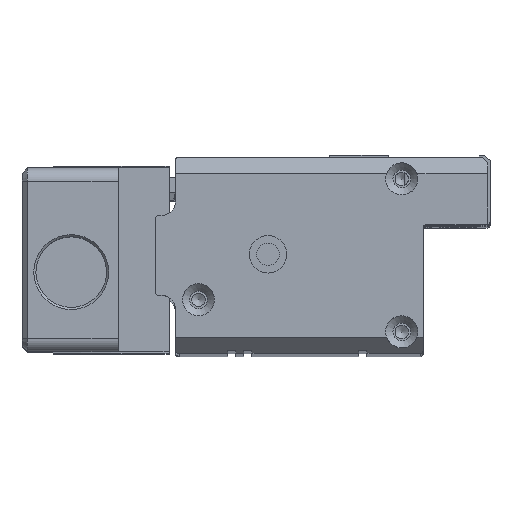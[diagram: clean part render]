
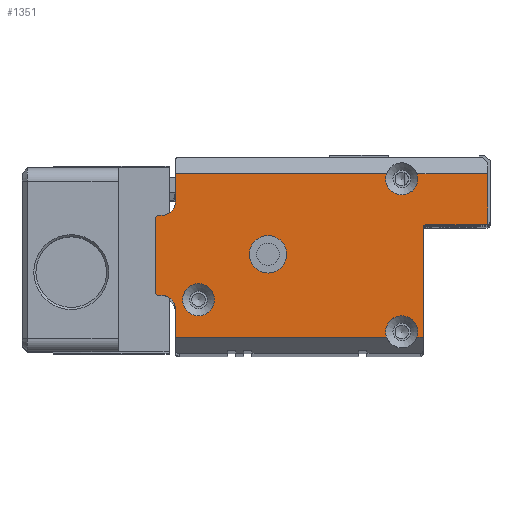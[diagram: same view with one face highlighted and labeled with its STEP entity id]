
A CAD part, top view. The second image highlights one B-rep face of the part: STEP entity #1351.
In plain terms, the highlighted planar face has unit normal (0, 0, 1).
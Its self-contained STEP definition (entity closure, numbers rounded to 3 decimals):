
#542=FACE_BOUND('',#2617,.T.);
#543=FACE_BOUND('',#2618,.T.);
#544=FACE_BOUND('',#2619,.T.);
#841=CIRCLE('',#9788,3.);
#842=CIRCLE('',#9789,3.);
#843=CIRCLE('',#9790,0.5);
#844=CIRCLE('',#9791,0.5);
#845=CIRCLE('',#9792,3.);
#846=CIRCLE('',#9793,2.5);
#847=CIRCLE('',#9794,0.5);
#848=CIRCLE('',#9795,0.5);
#849=CIRCLE('',#9796,2.5);
#850=CIRCLE('',#9797,3.5);
#1351=ADVANCED_FACE('',(#542,#543,#544),#1665,.T.);
#1665=PLANE('',#9798);
#2617=EDGE_LOOP('',(#6673));
#2618=EDGE_LOOP('',(#6674,#6675,#6676,#6677,#6678,#6679,#6680,#6681,#6682,
#6683,#6684,#6685,#6686,#6687,#6688,#6689,#6690,#6691,#6692,#6693));
#2619=EDGE_LOOP('',(#6694));
#3455=LINE('',#15266,#4315);
#3456=LINE('',#15268,#4316);
#3457=LINE('',#15272,#4317);
#3458=LINE('',#15276,#4318);
#3459=LINE('',#15278,#4319);
#3460=LINE('',#15282,#4320);
#3461=LINE('',#15284,#4321);
#3462=LINE('',#15288,#4322);
#3463=LINE('',#15292,#4323);
#3464=LINE('',#15296,#4324);
#3465=LINE('',#15300,#4325);
#3466=LINE('',#15302,#4326);
#4315=VECTOR('',#12127,1.);
#4316=VECTOR('',#12128,1.);
#4317=VECTOR('',#12131,1.);
#4318=VECTOR('',#12134,1.);
#4319=VECTOR('',#12135,1.);
#4320=VECTOR('',#12138,1.);
#4321=VECTOR('',#12139,1.);
#4322=VECTOR('',#12142,1.);
#4323=VECTOR('',#12145,1.);
#4324=VECTOR('',#12148,1.);
#4325=VECTOR('',#12151,1.);
#4326=VECTOR('',#12152,1.);
#6673=ORIENTED_EDGE('',*,*,#8920,.T.);
#6674=ORIENTED_EDGE('',*,*,#8921,.T.);
#6675=ORIENTED_EDGE('',*,*,#8922,.T.);
#6676=ORIENTED_EDGE('',*,*,#8923,.T.);
#6677=ORIENTED_EDGE('',*,*,#8924,.T.);
#6678=ORIENTED_EDGE('',*,*,#8925,.T.);
#6679=ORIENTED_EDGE('',*,*,#8926,.T.);
#6680=ORIENTED_EDGE('',*,*,#8927,.T.);
#6681=ORIENTED_EDGE('',*,*,#8928,.T.);
#6682=ORIENTED_EDGE('',*,*,#8929,.T.);
#6683=ORIENTED_EDGE('',*,*,#8930,.T.);
#6684=ORIENTED_EDGE('',*,*,#8931,.T.);
#6685=ORIENTED_EDGE('',*,*,#8932,.T.);
#6686=ORIENTED_EDGE('',*,*,#8933,.T.);
#6687=ORIENTED_EDGE('',*,*,#8934,.T.);
#6688=ORIENTED_EDGE('',*,*,#8935,.T.);
#6689=ORIENTED_EDGE('',*,*,#8936,.T.);
#6690=ORIENTED_EDGE('',*,*,#8937,.T.);
#6691=ORIENTED_EDGE('',*,*,#8938,.T.);
#6692=ORIENTED_EDGE('',*,*,#8939,.T.);
#6693=ORIENTED_EDGE('',*,*,#8940,.T.);
#6694=ORIENTED_EDGE('',*,*,#8941,.T.);
#7698=VERTEX_POINT('',#15262);
#7699=VERTEX_POINT('',#15264);
#7700=VERTEX_POINT('',#15265);
#7701=VERTEX_POINT('',#15267);
#7702=VERTEX_POINT('',#15269);
#7703=VERTEX_POINT('',#15271);
#7704=VERTEX_POINT('',#15273);
#7705=VERTEX_POINT('',#15275);
#7706=VERTEX_POINT('',#15277);
#7707=VERTEX_POINT('',#15279);
#7708=VERTEX_POINT('',#15281);
#7709=VERTEX_POINT('',#15283);
#7710=VERTEX_POINT('',#15285);
#7711=VERTEX_POINT('',#15287);
#7712=VERTEX_POINT('',#15289);
#7713=VERTEX_POINT('',#15291);
#7714=VERTEX_POINT('',#15293);
#7715=VERTEX_POINT('',#15295);
#7716=VERTEX_POINT('',#15297);
#7717=VERTEX_POINT('',#15299);
#7718=VERTEX_POINT('',#15301);
#7719=VERTEX_POINT('',#15304);
#8920=EDGE_CURVE('',#7698,#7698,#841,.T.);
#8921=EDGE_CURVE('',#7699,#7700,#842,.T.);
#8922=EDGE_CURVE('',#7700,#7701,#3455,.T.);
#8923=EDGE_CURVE('',#7701,#7702,#3456,.T.);
#8924=EDGE_CURVE('',#7702,#7703,#843,.T.);
#8925=EDGE_CURVE('',#7703,#7704,#3457,.T.);
#8926=EDGE_CURVE('',#7704,#7705,#844,.T.);
#8927=EDGE_CURVE('',#7705,#7706,#3458,.T.);
#8928=EDGE_CURVE('',#7706,#7707,#3459,.T.);
#8929=EDGE_CURVE('',#7707,#7708,#845,.T.);
#8930=EDGE_CURVE('',#7708,#7709,#3460,.T.);
#8931=EDGE_CURVE('',#7709,#7710,#3461,.T.);
#8932=EDGE_CURVE('',#7710,#7711,#846,.T.);
#8933=EDGE_CURVE('',#7711,#7712,#3462,.T.);
#8934=EDGE_CURVE('',#7712,#7713,#847,.T.);
#8935=EDGE_CURVE('',#7713,#7714,#3463,.T.);
#8936=EDGE_CURVE('',#7714,#7715,#848,.T.);
#8937=EDGE_CURVE('',#7715,#7716,#3464,.T.);
#8938=EDGE_CURVE('',#7716,#7717,#849,.T.);
#8939=EDGE_CURVE('',#7717,#7718,#3465,.T.);
#8940=EDGE_CURVE('',#7718,#7699,#3466,.T.);
#8941=EDGE_CURVE('',#7719,#7719,#850,.T.);
#9788=AXIS2_PLACEMENT_3D('',#15261,#12123,#12124);
#9789=AXIS2_PLACEMENT_3D('',#15263,#12125,#12126);
#9790=AXIS2_PLACEMENT_3D('',#15270,#12129,#12130);
#9791=AXIS2_PLACEMENT_3D('',#15274,#12132,#12133);
#9792=AXIS2_PLACEMENT_3D('',#15280,#12136,#12137);
#9793=AXIS2_PLACEMENT_3D('',#15286,#12140,#12141);
#9794=AXIS2_PLACEMENT_3D('',#15290,#12143,#12144);
#9795=AXIS2_PLACEMENT_3D('',#15294,#12146,#12147);
#9796=AXIS2_PLACEMENT_3D('',#15298,#12149,#12150);
#9797=AXIS2_PLACEMENT_3D('',#15303,#12153,#12154);
#9798=AXIS2_PLACEMENT_3D('',#15305,#12155,#12156);
#12123=DIRECTION('',(0.,0.,-1.));
#12124=DIRECTION('',(-1.,0.,0.));
#12125=DIRECTION('',(0.,0.,-1.));
#12126=DIRECTION('',(-1.,0.,0.));
#12127=DIRECTION('',(1.,0.,0.));
#12128=DIRECTION('',(0.,1.,0.));
#12129=DIRECTION('',(0.,0.,-1.));
#12130=DIRECTION('',(1.,0.,0.));
#12131=DIRECTION('',(1.,0.,0.));
#12132=DIRECTION('',(0.,0.,1.));
#12133=DIRECTION('',(1.,0.,0.));
#12134=DIRECTION('',(0.,1.,0.));
#12135=DIRECTION('',(-1.,0.,0.));
#12136=DIRECTION('',(0.,0.,-1.));
#12137=DIRECTION('',(-1.,0.,0.));
#12138=DIRECTION('',(-1.,0.,0.));
#12139=DIRECTION('',(0.,-1.,0.));
#12140=DIRECTION('',(0.,0.,-1.));
#12141=DIRECTION('',(1.,0.,0.));
#12142=DIRECTION('',(-1.,0.,0.));
#12143=DIRECTION('',(0.,0.,1.));
#12144=DIRECTION('',(1.,0.,0.));
#12145=DIRECTION('',(0.,-1.,0.));
#12146=DIRECTION('',(0.,0.,1.));
#12147=DIRECTION('',(1.,0.,0.));
#12148=DIRECTION('',(1.,0.,0.));
#12149=DIRECTION('',(0.,0.,-1.));
#12150=DIRECTION('',(1.,0.,0.));
#12151=DIRECTION('',(0.,-1.,0.));
#12152=DIRECTION('',(1.,0.,0.));
#12153=DIRECTION('',(0.,0.,-1.));
#12154=DIRECTION('',(-1.,0.,0.));
#12155=DIRECTION('',(0.,0.,1.));
#12156=DIRECTION('',(-1.,0.,0.));
#15261=CARTESIAN_POINT('',(8.,-26.6,8.));
#15262=CARTESIAN_POINT('',(5.,-26.6,8.));
#15263=CARTESIAN_POINT('',(46.,-32.6,8.));
#15264=CARTESIAN_POINT('',(43.172,-33.6,8.));
#15265=CARTESIAN_POINT('',(48.828,-33.6,8.));
#15266=CARTESIAN_POINT('',(50.,-33.6,8.));
#15267=CARTESIAN_POINT('',(50.,-33.6,8.));
#15268=CARTESIAN_POINT('',(50.,-36.6,8.));
#15269=CARTESIAN_POINT('',(50.,-13.1,8.));
#15270=CARTESIAN_POINT('',(50.5,-13.1,8.));
#15271=CARTESIAN_POINT('',(50.5,-12.6,8.));
#15272=CARTESIAN_POINT('',(50.,-12.6,8.));
#15273=CARTESIAN_POINT('',(61.6,-12.6,8.));
#15274=CARTESIAN_POINT('',(61.6,-12.1,8.));
#15275=CARTESIAN_POINT('',(62.1,-12.1,8.));
#15276=CARTESIAN_POINT('',(62.1,-12.6,8.));
#15277=CARTESIAN_POINT('',(62.1,-3.,8.));
#15278=CARTESIAN_POINT('',(3.7,-3.,8.));
#15279=CARTESIAN_POINT('',(48.828,-3.,8.));
#15280=CARTESIAN_POINT('',(46.,-4.,8.));
#15281=CARTESIAN_POINT('',(43.172,-3.,8.));
#15282=CARTESIAN_POINT('',(3.7,-3.,8.));
#15283=CARTESIAN_POINT('',(3.7,-3.,8.));
#15284=CARTESIAN_POINT('',(3.7,0.,8.));
#15285=CARTESIAN_POINT('',(3.7,-8.3,8.));
#15286=CARTESIAN_POINT('',(1.2,-8.3,8.));
#15287=CARTESIAN_POINT('',(1.2,-10.8,8.));
#15288=CARTESIAN_POINT('',(3.7,-10.8,8.));
#15289=CARTESIAN_POINT('',(0.5,-10.8,8.));
#15290=CARTESIAN_POINT('',(0.5,-11.3,8.));
#15291=CARTESIAN_POINT('',(0.,-11.3,8.));
#15292=CARTESIAN_POINT('',(0.,-10.8,8.));
#15293=CARTESIAN_POINT('',(0.,-25.3,8.));
#15294=CARTESIAN_POINT('',(0.5,-25.3,8.));
#15295=CARTESIAN_POINT('',(0.5,-25.8,8.));
#15296=CARTESIAN_POINT('',(0.,-25.8,8.));
#15297=CARTESIAN_POINT('',(1.2,-25.8,8.));
#15298=CARTESIAN_POINT('',(1.2,-28.3,8.));
#15299=CARTESIAN_POINT('',(3.7,-28.3,8.));
#15300=CARTESIAN_POINT('',(3.7,-25.8,8.));
#15301=CARTESIAN_POINT('',(3.7,-33.6,8.));
#15302=CARTESIAN_POINT('',(50.,-33.6,8.));
#15303=CARTESIAN_POINT('',(21.,-18.1,8.));
#15304=CARTESIAN_POINT('',(17.5,-18.1,8.));
#15305=CARTESIAN_POINT('',(0.,0.,8.));
